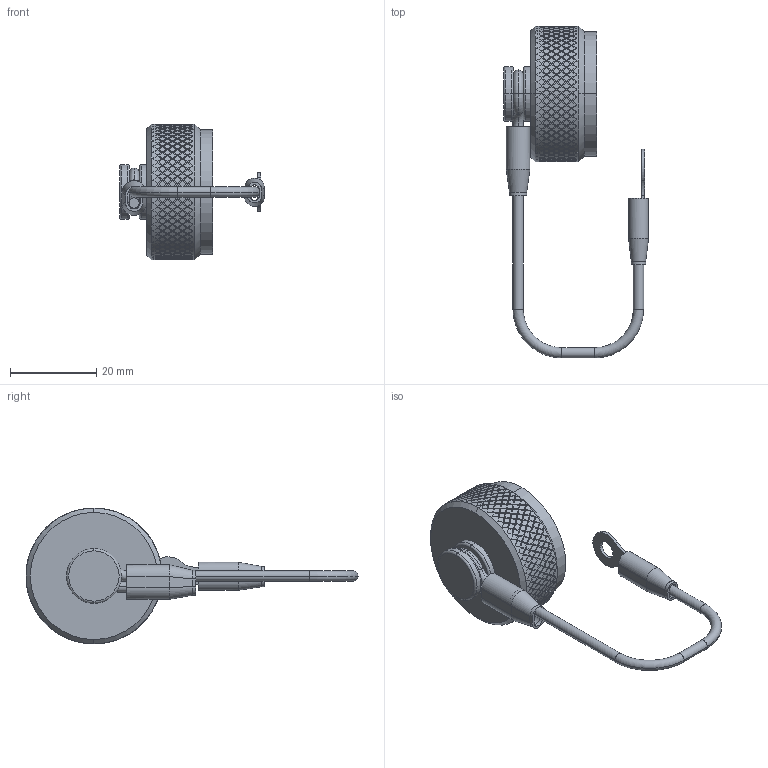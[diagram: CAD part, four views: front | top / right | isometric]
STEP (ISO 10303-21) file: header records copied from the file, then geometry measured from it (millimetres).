
FILE_DESCRIPTION (( 'STEP AP214' ), '1' );
FILE_NAME ('Q38DC-RFX-15-R1.STEP', '2026-04-22T19:13:37', ( '' ), ( '' ), 'SwSTEP 2.0', 'SolidWorks 2024', '' );
FILE_SCHEMA (( 'AUTOMOTIVE_DESIGN' ));
Length unit declared in the file: inch
Products named in the file (9): LN-06-07-13_Q38DC-RFX-15 (Assembled); Q38DC-RFX-15-R1; SW-348; Lanyard Assembly Q38_Q38DC-RFX-15; HEAT SHRINK_HS-125-625S; Q38-XX48-X_Q38-1548-X; SW-347; HEAT SHRINK_HS-250X625_SW-348; Q38-XX29-P_15R
Assembly tree (8 placements, depth 3):
  Q38DC-RFX-15-R1
    Q38-XX48-X_Q38-1548-X
    Lanyard Assembly Q38_Q38DC-RFX-15
      LN-06-07-13_Q38DC-RFX-15 (Assembled)
      SW-348
      HEAT SHRINK_HS-250X625_SW-348
      SW-347
      HEAT SHRINK_HS-125-625S
    Q38-XX29-P_15R
Bounding box: 33.64 x 77.02 x 31.52 mm (x, y, z)
Volume: 7164.2 mm3; surface area: 8145.2 mm2
Topology: 7 solids, 7 shells, 2432 faces, 6005 edges, 3979 vertices
Faces by surface type: plane 1861, cylinder 531, torus 20, bspline 14, cone 6
Entity records: 72365 total; most frequent: CARTESIAN_POINT 25181, ORIENTED_EDGE 12010, DIRECTION 7350, EDGE_CURVE 6005, VERTEX_POINT 3979, EDGE_LOOP 2834, AXIS2_PLACEMENT_3D 2698, ADVANCED_FACE 2432
